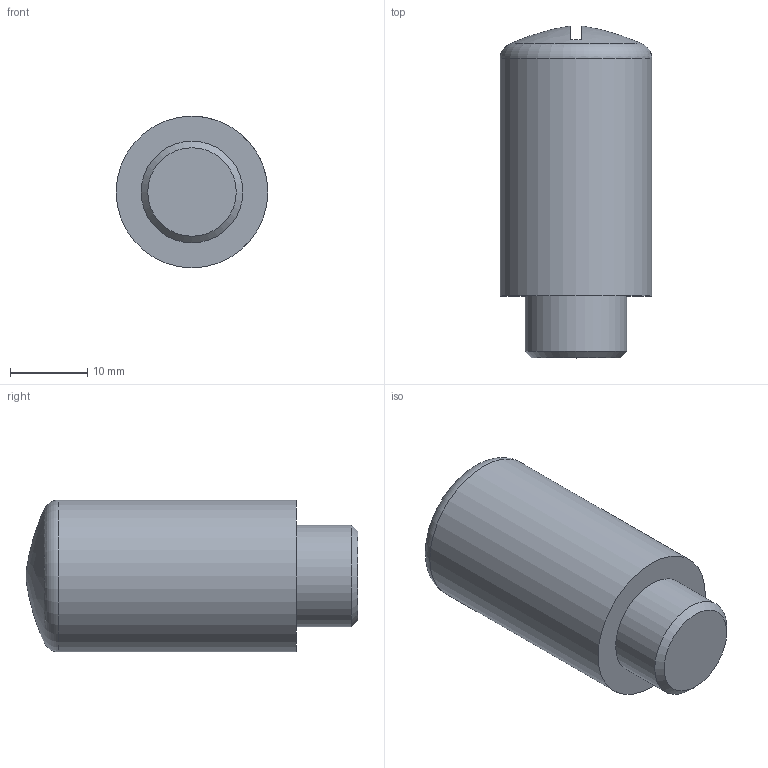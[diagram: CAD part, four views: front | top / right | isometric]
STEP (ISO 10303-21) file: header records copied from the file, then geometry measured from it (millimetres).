
FILE_DESCRIPTION( ( 'STEP AP214' ), '1' );
FILE_NAME( 'p:/temp/worker_8/temp/exporttempdir_1472_212_7VcZx/format_0/W0970530063.stp', '2021-12-09T08:32:26', ( 'License CC BY-ND 4.0' ), ( 'CADENAS' ), ' ', 'PARTsolutions', ' ' );
FILE_SCHEMA( ( 'AUTOMOTIVE_DESIGN { 1 0 10303 214 1 1 1 1 }' ) );
Length unit declared in the file: millimetre
Products named in the file (1): _W0970530063
Bounding box: 19.6 x 42.9 x 19.6 mm (x, y, z)
Volume: 11081.6 mm3; surface area: 2917.1 mm2
Topology: 1 solids, 1 shells, 10 faces, 18 edges, 11 vertices
Faces by surface type: plane 5, cylinder 2, cone 1, torus 1, bspline 1
Full cylindrical faces by diameter (mm): 13.157 x1, 19.6 x1
Entity records: 361 total; most frequent: CARTESIAN_POINT 94, DIRECTION 38, ORIENTED_EDGE 24, AXIS2_PLACEMENT_3D 18, EDGE_LOOP 16, FACE_OUTER_BOUND 14, EDGE_CURVE 12, STYLED_ITEM 10
